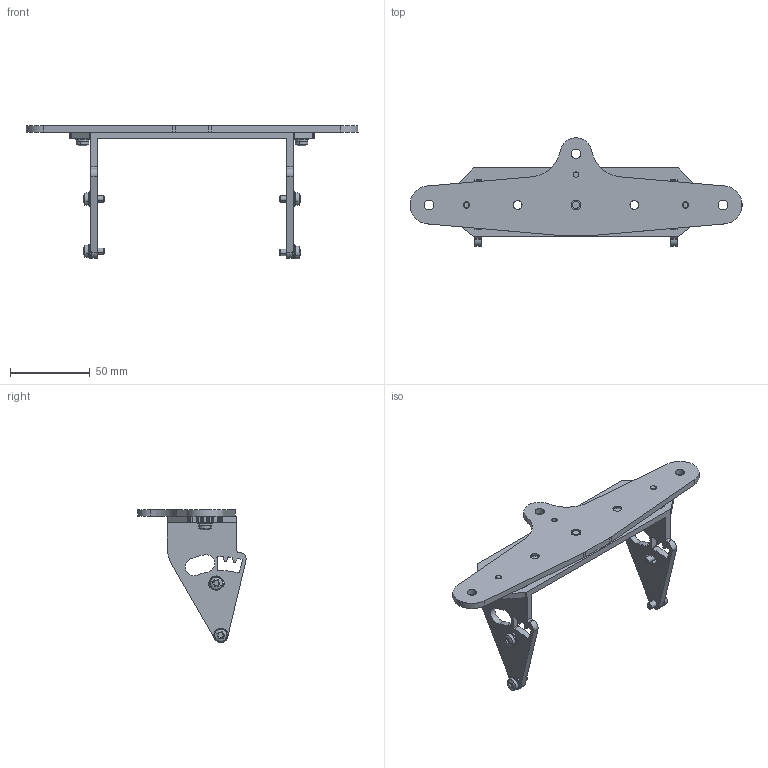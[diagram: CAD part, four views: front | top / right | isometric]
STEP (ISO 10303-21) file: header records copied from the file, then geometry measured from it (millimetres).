
FILE_DESCRIPTION(('Creo Elements/Direct Modeling STEP Export'),'2;1');
FILE_NAME('MountingBracket_3.stp','2016-03-10T13:54:03',(''),(''),'Creo Elements/Direct Modeling STEP processor for AP214 (Solid Model)','Creo Elements/Direct Modeling 18.1B 29-Sep-2012 (C) Parametric Technology GmbH','');
FILE_SCHEMA(('AUTOMOTIVE_DESIGN { 1 0 10303 214 1 1 1 1 }'));
Length unit declared in the file: millimetre
Products named in the file (8): 407948_Halteplatte_1; PEM_TPS-4MM-8; mounting_plate; Scheibe_DIN_125_-_A_4.3_-_.02.02.02.02.02; Federring_DIN_127_-_B_4.1_-_.03.02.02.02.02; adjustment_bracket_2A; Schr_ISO_14583_M4x10_in6rd.02.02.02; mounting_bracket_3
Assembly tree (22 placements, depth 3):
  mounting_bracket_3
    Schr_ISO_14583_M4x10_in6rd.02.02.02  x6
    Scheibe_DIN_125_-_A_4.3_-_.02.02.02.02.02  x6
    Federring_DIN_127_-_B_4.1_-_.03.02.02.02.02  x6
    adjustment_bracket_2A
    mounting_plate
      PEM_TPS-4MM-8
      407948_Halteplatte_1
Bounding box: 207.72 x 67.75 x 83.55 mm (x, y, z)
Volume: 68675.9 mm3; surface area: 44128.6 mm2
Topology: 21 solids, 21 shells, 833 faces, 2138 edges, 1378 vertices
Faces by surface type: plane 332, cylinder 293, bspline 144, cone 40, sphere 12, torus 12
Entity records: 17426 total; most frequent: CARTESIAN_POINT 5394, ORIENTED_EDGE 2526, DIRECTION 2376, EDGE_CURVE 1263, VERTEX_POINT 833, AXIS2_PLACEMENT_3D 806, VECTOR 764, LINE 764
